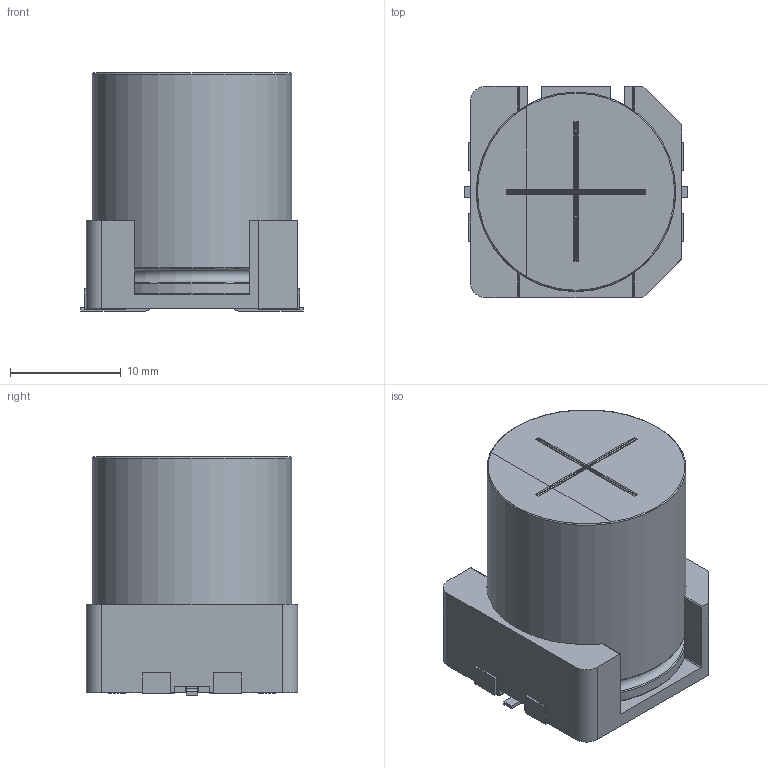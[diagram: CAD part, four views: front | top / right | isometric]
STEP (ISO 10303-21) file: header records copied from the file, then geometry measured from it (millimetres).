
FILE_DESCRIPTION(/* description */ (''),/* implementation_level */ '2;1');
FILE_NAME(/* name */ 'φ18x21.5L_耐振品_2.stp',/* time_stamp */ '2019-05-21T10:49:27+09:00',/* author */ (''),/* organization */ (''),/* preprocessor_version */ 'ST-DEVELOPER v16.7',/* originating_system */ 'SIEMENS PLM Software NX 1851',/* authorisation */ '');
FILE_SCHEMA (('AUTOMOTIVE_DESIGN { 1 0 10303 214 3 1 1 1 }'));
Length unit declared in the file: millimetre
Products named in the file (1): 18x21.5
Bounding box: 20.1 x 19.1 x 21.5 mm (x, y, z)
Volume: 5973.4 mm3; surface area: 3373 mm2
Topology: 9 solids, 9 shells, 186 faces, 465 edges, 298 vertices
Faces by surface type: plane 122, cylinder 51, torus 5, sphere 4, bspline 4
Full cylindrical faces by diameter (mm): 1.5 x4, 18 x2
Entity records: 5617 total; most frequent: CARTESIAN_POINT 1125, DIRECTION 908, ORIENTED_EDGE 896, EDGE_CURVE 448, LINE 338, VECTOR 338, VERTEX_POINT 296, AXIS2_PLACEMENT_3D 285
